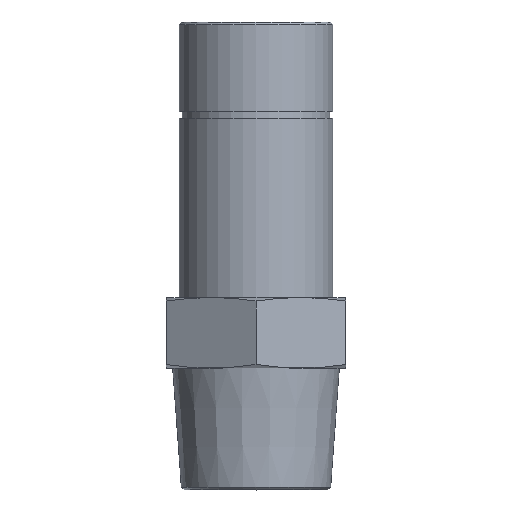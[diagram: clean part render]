
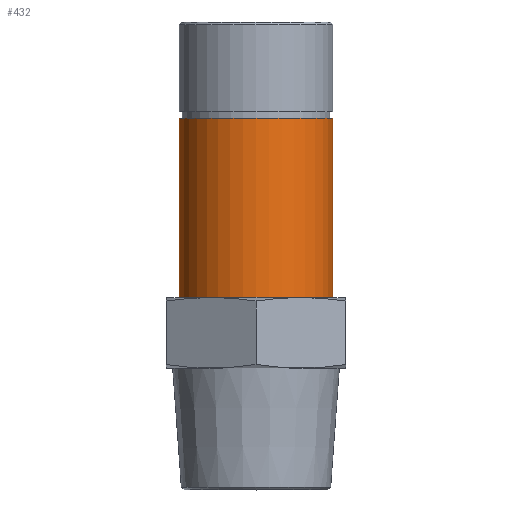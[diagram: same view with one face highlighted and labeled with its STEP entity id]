
A CAD part, top view. The second image highlights one B-rep face of the part: STEP entity #432.
In plain terms, the highlighted cylindrical face has radius 6 mm (diameter 12 mm), a full revolution.
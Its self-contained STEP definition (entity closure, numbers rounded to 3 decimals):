
#42=CYLINDRICAL_SURFACE('',#498,6.);
#70=FACE_OUTER_BOUND('',#104,.T.);
#104=EDGE_LOOP('',(#316,#317,#318,#319));
#135=LINE('',#707,#148);
#148=VECTOR('',#588,6.);
#167=CIRCLE('',#499,6.);
#168=CIRCLE('',#500,6.);
#193=VERTEX_POINT('',#704);
#194=VERTEX_POINT('',#706);
#237=EDGE_CURVE('',#193,#193,#167,.T.);
#238=EDGE_CURVE('',#193,#194,#135,.T.);
#239=EDGE_CURVE('',#194,#194,#168,.T.);
#316=ORIENTED_EDGE('',*,*,#237,.F.);
#317=ORIENTED_EDGE('',*,*,#238,.T.);
#318=ORIENTED_EDGE('',*,*,#239,.F.);
#319=ORIENTED_EDGE('',*,*,#238,.F.);
#432=ADVANCED_FACE('',(#70),#42,.T.);
#498=AXIS2_PLACEMENT_3D('',#703,#584,#585);
#499=AXIS2_PLACEMENT_3D('',#705,#586,#587);
#500=AXIS2_PLACEMENT_3D('',#708,#589,#590);
#584=DIRECTION('center_axis',(0.,1.,0.));
#585=DIRECTION('ref_axis',(1.,0.,0.));
#586=DIRECTION('center_axis',(0.,1.,0.));
#587=DIRECTION('ref_axis',(1.,0.,0.));
#588=DIRECTION('',(0.,-1.,0.));
#589=DIRECTION('center_axis',(0.,-1.,0.));
#590=DIRECTION('ref_axis',(1.,0.,0.));
#703=CARTESIAN_POINT('Origin',(0.,5.5,0.));
#704=CARTESIAN_POINT('',(-6.,19.5,0.));
#705=CARTESIAN_POINT('Origin',(0.,19.5,0.));
#706=CARTESIAN_POINT('',(-6.,5.5,0.));
#707=CARTESIAN_POINT('',(-6.,5.5,0.));
#708=CARTESIAN_POINT('Origin',(0.,5.5,0.));
